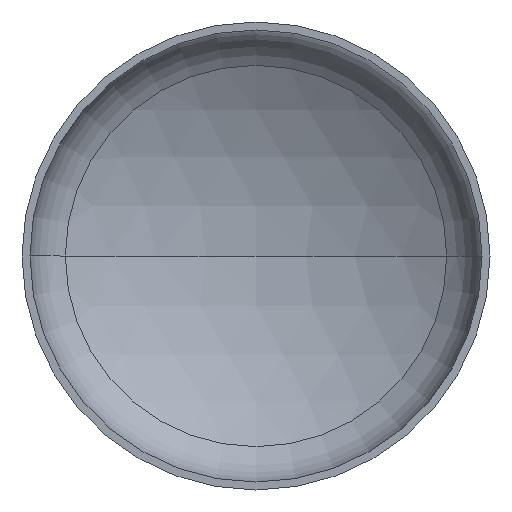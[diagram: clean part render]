
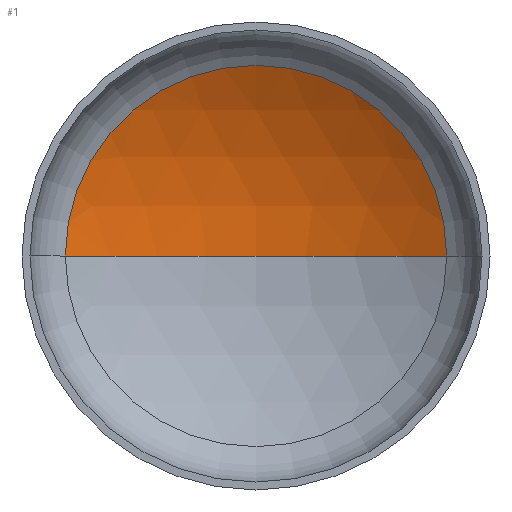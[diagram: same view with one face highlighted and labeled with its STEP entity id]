
A CAD part, front view. The second image highlights one B-rep face of the part: STEP entity #1.
In plain terms, the highlighted spherical face has radius 4800 mm.
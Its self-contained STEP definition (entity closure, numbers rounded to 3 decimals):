
#1 = ADVANCED_FACE ( 'NONE', ( #348 ), #253, .F. ) ;
#46 = VERTEX_POINT ( 'NONE', #260 ) ;
#55 = AXIS2_PLACEMENT_3D ( 'NONE', #177, #296, #66 ) ;
#57 = AXIS2_PLACEMENT_3D ( 'NONE', #199, #194, #195 ) ;
#65 = AXIS2_PLACEMENT_3D ( 'NONE', #293, #291, #203 ) ;
#66 = DIRECTION ( 'NONE',  ( 1., 0., 0. ) ) ;
#89 = ORIENTED_EDGE ( 'NONE', *, *, #122, .T. ) ;
#94 = AXIS2_PLACEMENT_3D ( 'NONE', #277, #283, #275 ) ;
#97 = ORIENTED_EDGE ( 'NONE', *, *, #126, .T. ) ;
#115 = VERTEX_POINT ( 'NONE', #189 ) ;
#122 = EDGE_CURVE ( 'NONE', #115, #46, #282, .T. ) ;
#126 = EDGE_CURVE ( 'NONE', #240, #115, #327, .T. ) ;
#128 = EDGE_CURVE ( 'NONE', #240, #46, #388, .T. ) ;
#151 = CARTESIAN_POINT ( 'NONE',  ( 0., 1539.899, 0. ) ) ;
#177 = CARTESIAN_POINT ( 'NONE',  ( 0., -3260.101, 0. ) ) ;
#186 = ORIENTED_EDGE ( 'NONE', *, *, #128, .F. ) ;
#189 = CARTESIAN_POINT ( 'NONE',  ( 2443.974, 871.121, 0. ) ) ;
#193 = EDGE_LOOP ( 'NONE', ( #186, #97, #89 ) ) ;
#194 = DIRECTION ( 'NONE',  ( 0., 0., -1. ) ) ;
#195 = DIRECTION ( 'NONE',  ( -1., 0., 0. ) ) ;
#199 = CARTESIAN_POINT ( 'NONE',  ( 0., -3260.101, 0. ) ) ;
#203 = DIRECTION ( 'NONE',  ( 1., 0., 0. ) ) ;
#240 = VERTEX_POINT ( 'NONE', #151 ) ;
#253 = SPHERICAL_SURFACE ( 'NONE', #94, 4800. ) ;
#260 = CARTESIAN_POINT ( 'NONE',  ( -2443.974, 871.121, 0. ) ) ;
#275 = DIRECTION ( 'NONE',  ( -1., 0., 0. ) ) ;
#277 = CARTESIAN_POINT ( 'NONE',  ( 0., -3260.101, 0. ) ) ;
#282 = CIRCLE ( 'NONE', #65, 2443.974 ) ;
#283 = DIRECTION ( 'NONE',  ( 0., 0., -1. ) ) ;
#291 = DIRECTION ( 'NONE',  ( 0., -1., 0. ) ) ;
#293 = CARTESIAN_POINT ( 'NONE',  ( 0., 871.121, 0. ) ) ;
#296 = DIRECTION ( 'NONE',  ( 0., 0., 1. ) ) ;
#327 = CIRCLE ( 'NONE', #57, 4800. ) ;
#348 = FACE_OUTER_BOUND ( 'NONE', #193, .T. ) ;
#388 = CIRCLE ( 'NONE', #55, 4800. ) ;
